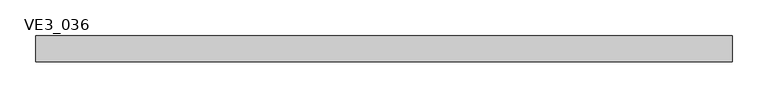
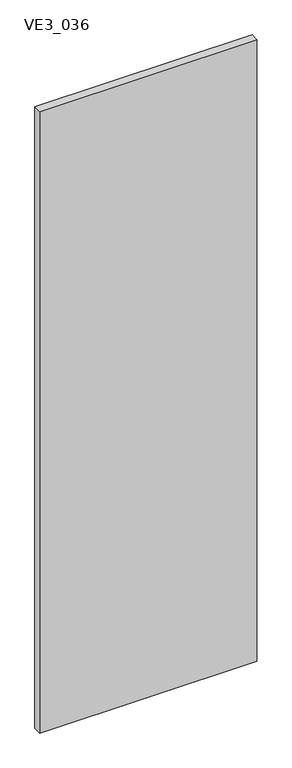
"""IFC4 building model written with IfcOpenShell, lengths in millimetres: plate geometry, TRP_CP_ARC_PF_RE_SE : VE3_036."""

from ifc_helpers import new_model, si_unit, frame, origin, place, context, project, spatial, polyline, outline, extrude, source, transform, mapped, element, save


def ve3_036_04a157bd(model_context):
    return source(origin(), model_context, "Body", "SweptSolid", [
        extrude(outline(polyline([(485.1015023, 18.0), (485.1015023, -18.0), (-485.1015023, -18.0), (-485.1015023, 18.0), (485.1015023, 18.0)])), frame((0.0, 0.0, -3.1739529), z_axis=(0.0, 0.0, 1.0), x_axis=(1.0, 0.0, 0.0)), (0.0, 0.0, 1.0), 2933.1739529),
    ])


if __name__ == "__main__":
    model = new_model("IFC4")
    model_context = context("Model", 3, world=origin())
    ifc_project = project(units=[si_unit("LENGTHUNIT", "METRE", prefix="MILLI")], contexts=[model_context])
    site = spatial("IfcSite", under=ifc_project)
    building = spatial("IfcBuilding", under=site)
    placement = place(None, origin())
    ve3_036_shape = ve3_036_04a157bd(model_context)
    element("IfcPlate", 1, ObjectType="TRP_CP_ARC_PF_RE_SE : VE3_036", at=placement, inside=building, context=model_context, shape_type="MappedRepresentation", body=[
        mapped(ve3_036_shape, transform((0.0, 0.0, 0.0), x_axis=(1.0, 0.0, 0.0), y_axis=(0.0, 1.0, 0.0), z_axis=(0.0, 0.0, 1.0))),
    ])
    save(model, "model.ifc")
